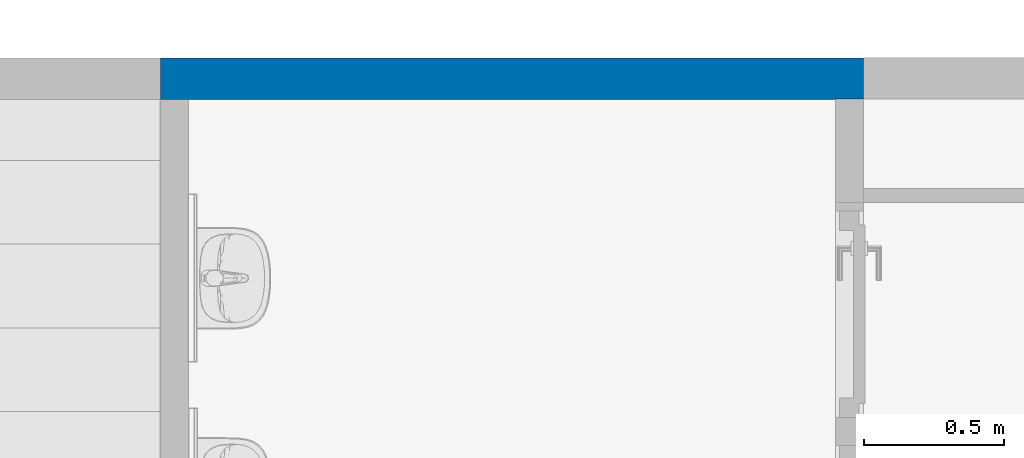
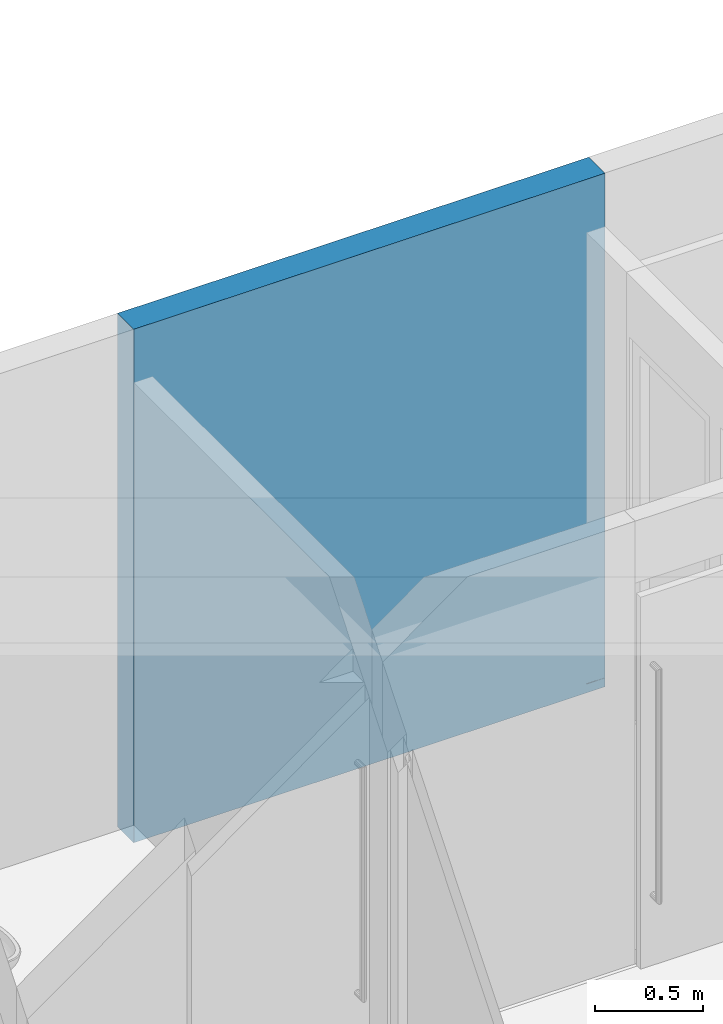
"""IFC4 building model written with IfcOpenShell, lengths in metres."""

from ifc_helpers import new_model, entity, si_unit, converted_unit, derived_unit, frame, origin, place, context, subcontext, project, spatial, faceted_brep, element, save


model = new_model("IFC4")

# Units and contexts
model_context = context("Model", 3, precision=1e-05, world=origin())
body_context = subcontext(model_context, "Body", "Model", "MODEL_VIEW")
ifc_project = project(units=[si_unit("LENGTHUNIT", "METRE"), si_unit("AREAUNIT", "SQUARE_METRE"), si_unit("VOLUMEUNIT", "CUBIC_METRE"), si_unit("MASSUNIT", "GRAM", prefix="KILO"), converted_unit("PLANEANGLEUNIT", "DEGREE", entity("IfcPlaneAngleMeasure", 0.0174532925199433), si_unit("PLANEANGLEUNIT", "RADIAN"), dimensions=[0, 0, 0, 0, 0, 0, 0]), derived_unit("THERMALTRANSMITTANCEUNIT", [(si_unit("POWERUNIT", "WATT"), 1), (si_unit("THERMODYNAMICTEMPERATUREUNIT", "KELVIN"), -1), (si_unit("LENGTHUNIT", "METRE"), -2)]), derived_unit("VOLUMETRICFLOWRATEUNIT", [(si_unit("LENGTHUNIT", "METRE"), 3), (converted_unit("TIMEUNIT", "hour", entity("IfcTimeMeasure", 3600.0), si_unit("TIMEUNIT", "SECOND"), dimensions=[0, 0, 1, 0, 0, 0, 0]), -1), (si_unit("LENGTHUNIT", "METRE"), -1)])], contexts=[model_context])

# Building, storeys
building_placement = place(None, origin())
building = spatial("IfcBuilding", under=ifc_project, at=building_placement, Name="HABITATGE PLURIFAMILIAR", CompositionType="ELEMENT")
storey_1_placement = place(building_placement, frame((0.0, 0.0, 3.35)))
storey_1 = spatial("IfcBuildingStorey", under=building, at=storey_1_placement, Name="PLANTA  ALTELL", CompositionType="ELEMENT", Elevation=3.35)
storey_2_placement = place(storey_1_placement, origin())
storey_2 = spatial("IfcBuildingStorey", under=storey_1, at=storey_2_placement, Name="NOU", CompositionType="PARTIAL")

# Wall
wall_placement = place(storey_2_placement, frame((403.257142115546, 28.07824790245, -0.1)))
element("IfcWall", 1, at=wall_placement, inside=storey_2, Name="Evans PA", context=body_context, shape_type="Brep", body=[
    faceted_brep([(2.51872507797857, 0.00183985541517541, 2.6), (2.51872507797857, 0.00183985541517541, 0.05), (2.41872507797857, 0.00183985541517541, 0.05), (2.41872507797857, 0.00183985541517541, 2.6), (2.51872507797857, 0.0, 2.6), (2.41872507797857, 0.0, 2.6), (2.41872507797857, 0.0, 0.05), (2.51872507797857, 0.0, 0.05), (2.51872507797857, 0.0, 0.0), (0.0, 0.0, 0.0), (0.0, 0.0, 2.9), (2.51872507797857, 0.0, 2.9), (0.0, 0.15, 0.0), (0.0, 0.15, 2.9), (2.51872507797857, 0.15, 0.0), (2.51872507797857, 0.15, 2.9)], [[[0, 1, 2, 3]], [[4, 0, 3, 5]], [[6, 2, 1, 7]], [[3, 2, 6, 5]], [[5, 6, 7, 8, 9, 10, 11, 4]], [[9, 12, 13, 10]], [[12, 14, 15, 13]], [[4, 11, 15, 14, 8, 7, 1, 0]], [[15, 11, 10, 13]], [[8, 14, 12, 9]]], orient=[[False], [False], [False], [False], [False], [False], [False], [False], [False], [False]]),
])

save(model, "model.ifc")
